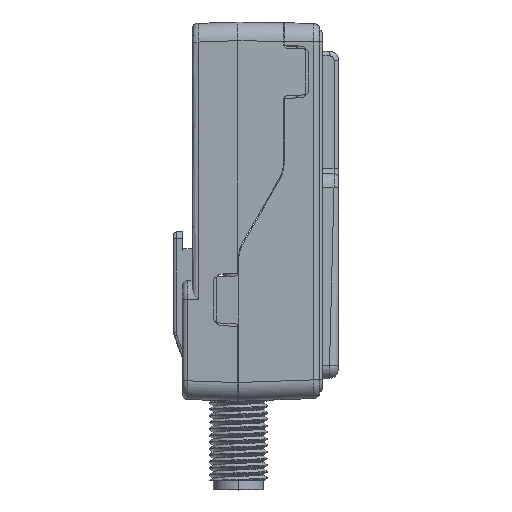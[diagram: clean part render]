
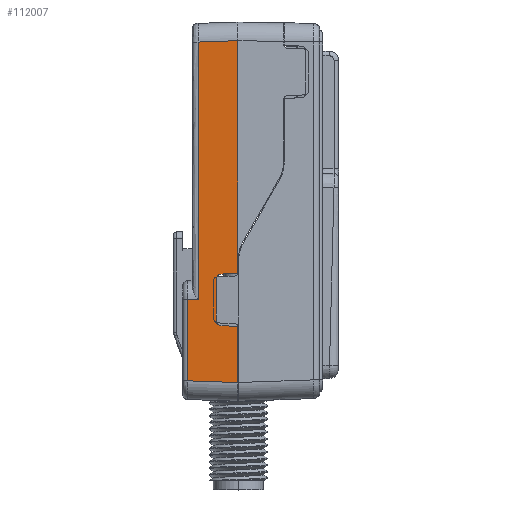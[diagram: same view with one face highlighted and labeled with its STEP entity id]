
A CAD part, left-side view. The second image highlights one B-rep face of the part: STEP entity #112007.
In plain terms, the highlighted planar face has unit normal (-0.999, 0.035, 0).
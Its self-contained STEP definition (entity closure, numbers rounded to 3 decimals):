
#286 = VERTEX_POINT ( 'NONE', #21195 ) ;
#851 = AXIS2_PLACEMENT_3D ( 'NONE', #94402, #42641, #12395 ) ;
#3214 = CARTESIAN_POINT ( 'NONE',  ( -101.334, 49.971, -88.853 ) ) ;
#4097 = CARTESIAN_POINT ( 'NONE',  ( -101.334, 49.971, -98.038 ) ) ;
#6260 = VERTEX_POINT ( 'NONE', #63237 ) ;
#7113 = FACE_OUTER_BOUND ( 'NONE', #119714, .T. ) ;
#8536 = CARTESIAN_POINT ( 'NONE',  ( -101.334, 49.971, -98.038 ) ) ;
#8701 = DIRECTION ( 'NONE',  ( 0., 0., 1. ) ) ;
#9264 = VECTOR ( 'NONE', #8701, 1000. ) ;
#10655 = CARTESIAN_POINT ( 'NONE',  ( -101.4, 48.066, -95.821 ) ) ;
#10875 = VECTOR ( 'NONE', #155325, 1000. ) ;
#11693 = DIRECTION ( 'NONE',  ( 0.035, 0.999, -0.035 ) ) ;
#12395 = DIRECTION ( 'NONE',  ( 0.035, 0.999, 0. ) ) ;
#12562 = CARTESIAN_POINT ( 'NONE',  ( -101.452, 46.58, -95.286 ) ) ;
#13754 = VERTEX_POINT ( 'NONE', #163074 ) ;
#14690 = DIRECTION ( 'NONE',  ( 0., 0., 1. ) ) ;
#17978 = CARTESIAN_POINT ( 'NONE',  ( -101.31, 50.666, -98.038 ) ) ;
#21195 = CARTESIAN_POINT ( 'NONE',  ( -101.481, 45.766, -106.939 ) ) ;
#22065 = LINE ( 'NONE', #130835, #9264 ) ;
#22689 = CARTESIAN_POINT ( 'NONE',  ( -101.417, 47.583, -95.321 ) ) ;
#23155 = ORIENTED_EDGE ( 'NONE', *, *, #52555, .T. ) ;
#23903 =( BOUNDED_CURVE ( )  B_SPLINE_CURVE ( 3, ( #10655, #50737, #67609, #159524 ),
 .UNSPECIFIED., .F., .F. ) 
 B_SPLINE_CURVE_WITH_KNOTS ( ( 4, 4 ),
 ( 0., 1.536 ),
 .UNSPECIFIED. ) 
 CURVE ( )  GEOMETRIC_REPRESENTATION_ITEM ( )  RATIONAL_B_SPLINE_CURVE ( ( 1., 0.813, 0.813, 1. ) ) 
 REPRESENTATION_ITEM ( '' )  );
#24482 = EDGE_CURVE ( 'NONE', #105255, #48447, #38493, .T. ) ;
#25393 = EDGE_CURVE ( 'NONE', #48447, #69416, #22065, .T. ) ;
#26680 = VECTOR ( 'NONE', #11693, 1000. ) ;
#26738 = VECTOR ( 'NONE', #45848, 1000. ) ;
#28923 = CARTESIAN_POINT ( 'NONE',  ( -101.483, 45.696, -106.942 ) ) ;
#30021 = EDGE_CURVE ( 'NONE', #164705, #103713, #39268, .T. ) ;
#30363 = ORIENTED_EDGE ( 'NONE', *, *, #25393, .T. ) ;
#31508 = CARTESIAN_POINT ( 'NONE',  ( -101.417, 47.583, -100.855 ) ) ;
#31804 = VERTEX_POINT ( 'NONE', #124790 ) ;
#31979 = VECTOR ( 'NONE', #83390, 1000. ) ;
#33524 = CARTESIAN_POINT ( 'NONE',  ( -101.4, 48.066, -95.821 ) ) ;
#38316 = ORIENTED_EDGE ( 'NONE', *, *, #169699, .T. ) ;
#38493 =( BOUNDED_CURVE ( )  B_SPLINE_CURVE ( 3, ( #162136, #78283, #51566, #132715 ),
 .UNSPECIFIED., .F., .F. ) 
 B_SPLINE_CURVE_WITH_KNOTS ( ( 4, 4 ),
 ( 4.747, 6.283 ),
 .UNSPECIFIED. ) 
 CURVE ( )  GEOMETRIC_REPRESENTATION_ITEM ( )  RATIONAL_B_SPLINE_CURVE ( ( 1., 0.813, 0.813, 1. ) ) 
 REPRESENTATION_ITEM ( '' )  );
#39268 = LINE ( 'NONE', #12562, #26680 ) ;
#42641 = DIRECTION ( 'NONE',  ( 0.999, -0.035, 0. ) ) ;
#45037 = EDGE_CURVE ( 'NONE', #6260, #286, #151219, .T. ) ;
#45848 = DIRECTION ( 'NONE',  ( 0.035, 0.999, -0.035 ) ) ;
#46732 = CARTESIAN_POINT ( 'NONE',  ( -101.4, 48.066, -100.355 ) ) ;
#47891 = CARTESIAN_POINT ( 'NONE',  ( -101.481, 45.766, -93.945 ) ) ;
#48089 = PLANE ( 'NONE',  #851 ) ;
#48447 = VERTEX_POINT ( 'NONE', #46732 ) ;
#50737 = CARTESIAN_POINT ( 'NONE',  ( -101.4, 48.066, -95.536 ) ) ;
#51566 = CARTESIAN_POINT ( 'NONE',  ( -101.4, 48.066, -100.64 ) ) ;
#52555 = EDGE_CURVE ( 'NONE', #96348, #94871, #134468, .T. ) ;
#54821 = VECTOR ( 'NONE', #150065, 1000. ) ;
#56375 = CARTESIAN_POINT ( 'NONE',  ( -101.502, 45.149, -100.94 ) ) ;
#57464 = LINE ( 'NONE', #58370, #165369 ) ;
#58370 = CARTESIAN_POINT ( 'NONE',  ( -101.481, 45.766, -118.638 ) ) ;
#58455 = CARTESIAN_POINT ( 'NONE',  ( -101.334, 49.971, -79.668 ) ) ;
#60772 = VERTEX_POINT ( 'NONE', #153578 ) ;
#61648 = EDGE_CURVE ( 'NONE', #62808, #137729, #57464, .T. ) ;
#62808 = VERTEX_POINT ( 'NONE', #166506 ) ;
#62832 = ORIENTED_EDGE ( 'NONE', *, *, #24482, .T. ) ;
#63237 = CARTESIAN_POINT ( 'NONE',  ( -101.291, 51.183, -106.75 ) ) ;
#63910 = LINE ( 'NONE', #47891, #165900 ) ;
#64759 = EDGE_CURVE ( 'NONE', #69416, #103713, #23903, .T. ) ;
#67609 = CARTESIAN_POINT ( 'NONE',  ( -101.407, 47.868, -95.331 ) ) ;
#69416 = VERTEX_POINT ( 'NONE', #33524 ) ;
#69961 = CARTESIAN_POINT ( 'NONE',  ( -101.312, 50.596, -70.506 ) ) ;
#72212 = EDGE_CURVE ( 'NONE', #137729, #13754, #117572, .T. ) ;
#72226 = EDGE_CURVE ( 'NONE', #60772, #6260, #131844, .T. ) ;
#76553 = DIRECTION ( 'NONE',  ( 0., 0., -1. ) ) ;
#77406 = CARTESIAN_POINT ( 'NONE',  ( -101.481, 45.766, -118.638 ) ) ;
#78283 = CARTESIAN_POINT ( 'NONE',  ( -101.407, 47.868, -100.845 ) ) ;
#79517 = ORIENTED_EDGE ( 'NONE', *, *, #61648, .T. ) ;
#83390 = DIRECTION ( 'NONE',  ( -0.035, -0.999, -0.035 ) ) ;
#83575 = EDGE_CURVE ( 'NONE', #62808, #164705, #63910, .T. ) ;
#85549 = ORIENTED_EDGE ( 'NONE', *, *, #72212, .T. ) ;
#90005 = CARTESIAN_POINT ( 'NONE',  ( -101.291, 51.183, -118.638 ) ) ;
#91527 = VECTOR ( 'NONE', #172003, 1000. ) ;
#94309 = VECTOR ( 'NONE', #76553, 1000. ) ;
#94402 = CARTESIAN_POINT ( 'NONE',  ( -101.481, 45.766, -118.638 ) ) ;
#94871 = VERTEX_POINT ( 'NONE', #8536 ) ;
#96348 = VERTEX_POINT ( 'NONE', #149216 ) ;
#101429 = DIRECTION ( 'NONE',  ( 0., 0., -1. ) ) ;
#103713 = VERTEX_POINT ( 'NONE', #22689 ) ;
#105158 = ORIENTED_EDGE ( 'NONE', *, *, #64759, .T. ) ;
#105255 = VERTEX_POINT ( 'NONE', #31508 ) ;
#107428 = VECTOR ( 'NONE', #127727, 1000. ) ;
#108148 = ORIENTED_EDGE ( 'NONE', *, *, #30021, .F. ) ;
#112007 = ADVANCED_FACE ( 'NONE', ( #7113 ), #48089, .F. ) ;
#114369 = CARTESIAN_POINT ( 'NONE',  ( -101.481, 45.766, -93.945 ) ) ;
#115176 = ORIENTED_EDGE ( 'NONE', *, *, #126122, .T. ) ;
#115807 = ORIENTED_EDGE ( 'NONE', *, *, #153000, .F. ) ;
#115962 = CARTESIAN_POINT ( 'NONE',  ( -101.481, 45.766, -95.258 ) ) ;
#117572 = LINE ( 'NONE', #77406, #91527 ) ;
#119714 = EDGE_LOOP ( 'NONE', ( #79517, #85549, #38316, #23155, #166146, #148431, #124593, #115807, #115176, #62832, #30363, #105158, #108148, #155006 ) ) ;
#124133 = LINE ( 'NONE', #56375, #54821 ) ;
#124593 = ORIENTED_EDGE ( 'NONE', *, *, #45037, .T. ) ;
#124609 = CARTESIAN_POINT ( 'NONE',  ( -101.481, 45.766, -70.338 ) ) ;
#124790 = CARTESIAN_POINT ( 'NONE',  ( -101.481, 45.766, -100.918 ) ) ;
#126121 = LINE ( 'NONE', #69961, #26738 ) ;
#126122 = EDGE_CURVE ( 'NONE', #31804, #105255, #124133, .T. ) ;
#126844 = LINE ( 'NONE', #114369, #107428 ) ;
#127727 = DIRECTION ( 'NONE',  ( 0., 0., -1. ) ) ;
#130835 = CARTESIAN_POINT ( 'NONE',  ( -101.4, 48.066, -118.638 ) ) ;
#131844 = LINE ( 'NONE', #90005, #94309 ) ;
#132715 = CARTESIAN_POINT ( 'NONE',  ( -101.4, 48.066, -100.355 ) ) ;
#134468 = B_SPLINE_CURVE_WITH_KNOTS ( 'NONE', 3,
 ( #165506, #58455, #3214, #4097 ),
 .UNSPECIFIED., .F., .F.,
 ( 4, 4 ),
 ( 0., 1. ),
 .UNSPECIFIED. ) ;
#136213 = EDGE_CURVE ( 'NONE', #60772, #94871, #139276, .T. ) ;
#137729 = VERTEX_POINT ( 'NONE', #124609 ) ;
#139276 = LINE ( 'NONE', #17978, #10875 ) ;
#148431 = ORIENTED_EDGE ( 'NONE', *, *, #72226, .T. ) ;
#149216 = CARTESIAN_POINT ( 'NONE',  ( -101.334, 49.971, -70.484 ) ) ;
#150065 = DIRECTION ( 'NONE',  ( 0.035, 0.999, 0.035 ) ) ;
#151219 = LINE ( 'NONE', #28923, #31979 ) ;
#153000 = EDGE_CURVE ( 'NONE', #31804, #286, #126844, .T. ) ;
#153578 = CARTESIAN_POINT ( 'NONE',  ( -101.291, 51.183, -98.038 ) ) ;
#155006 = ORIENTED_EDGE ( 'NONE', *, *, #83575, .F. ) ;
#155325 = DIRECTION ( 'NONE',  ( -0.035, -0.999, 0. ) ) ;
#159524 = CARTESIAN_POINT ( 'NONE',  ( -101.417, 47.583, -95.321 ) ) ;
#162136 = CARTESIAN_POINT ( 'NONE',  ( -101.417, 47.583, -100.855 ) ) ;
#163074 = CARTESIAN_POINT ( 'NONE',  ( -101.481, 45.766, -70.337 ) ) ;
#164705 = VERTEX_POINT ( 'NONE', #115962 ) ;
#165369 = VECTOR ( 'NONE', #14690, 1000. ) ;
#165506 = CARTESIAN_POINT ( 'NONE',  ( -101.334, 49.971, -70.484 ) ) ;
#165900 = VECTOR ( 'NONE', #101429, 1000. ) ;
#166146 = ORIENTED_EDGE ( 'NONE', *, *, #136213, .F. ) ;
#166506 = CARTESIAN_POINT ( 'NONE',  ( -101.481, 45.766, -93.945 ) ) ;
#169699 = EDGE_CURVE ( 'NONE', #13754, #96348, #126121, .T. ) ;
#172003 = DIRECTION ( 'NONE',  ( 0., 0., 1. ) ) ;
